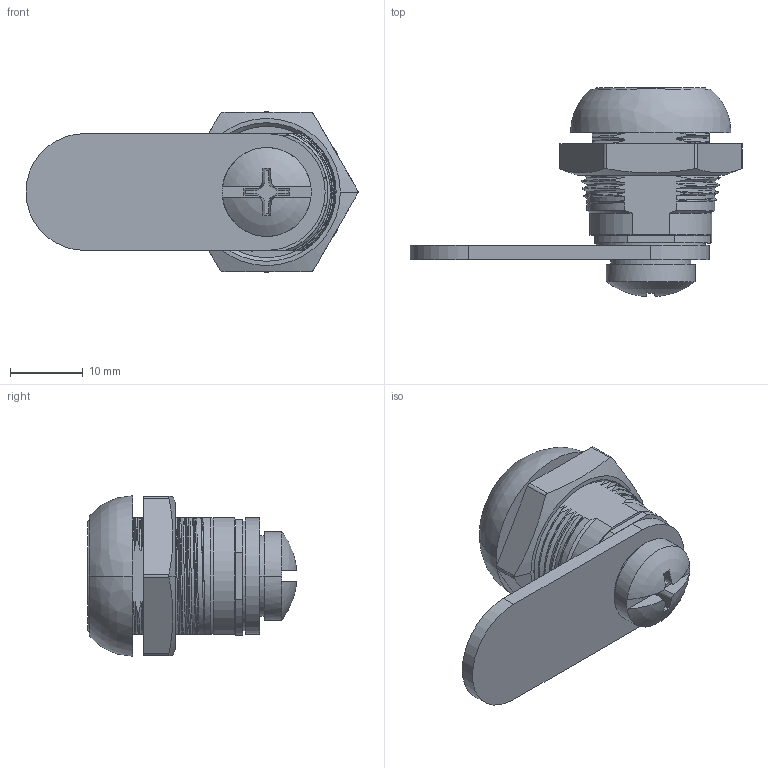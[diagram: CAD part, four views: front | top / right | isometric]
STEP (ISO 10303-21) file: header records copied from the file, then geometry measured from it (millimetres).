
FILE_DESCRIPTION((''),'2;1');
FILE_NAME('745-1_ASM','2021-11-26T10:32:37',('013797'),(''),'CREO PARAMETRIC BY PTC INC, 2020342','CREO PARAMETRIC BY PTC INC, 2020342','');
FILE_SCHEMA(('CONFIG_CONTROL_DESIGN'));
Length unit declared in the file: millimetre
Products named in the file (11): JIZUO-866-1A; SUOXIN-865; SUOMAO; 866-1-SUOXIN_ASM; DINGWEIJIAN-866-1A; KAPIAN; S1B3300; WAICHISUOJINDIANQUAN; DAIDIANLUODING-M6X5; LUOMU; 745-1_ASM
Assembly tree (10 placements, depth 3):
  745-1_ASM
    JIZUO-866-1A
    866-1-SUOXIN_ASM
      SUOXIN-865
      SUOMAO
    DINGWEIJIAN-866-1A
    KAPIAN
    S1B3300
    WAICHISUOJINDIANQUAN
    DAIDIANLUODING-M6X5
    LUOMU
Bounding box: 45.51 x 28.62 x 22 mm (x, y, z)
Volume: 6965.7 mm3; surface area: 8870.3 mm2
Topology: 9 solids, 12 shells, 359 faces, 989 edges, 652 vertices
Faces by surface type: plane 160, cylinder 91, bspline 87, cone 16, sphere 3, torus 2
Entity records: 29753 total; most frequent: CARTESIAN_POINT 20970, ORIENTED_EDGE 1966, DIRECTION 1499, EDGE_CURVE 989, VERTEX_POINT 652, AXIS2_PLACEMENT_3D 513, VECTOR 473, LINE 473
